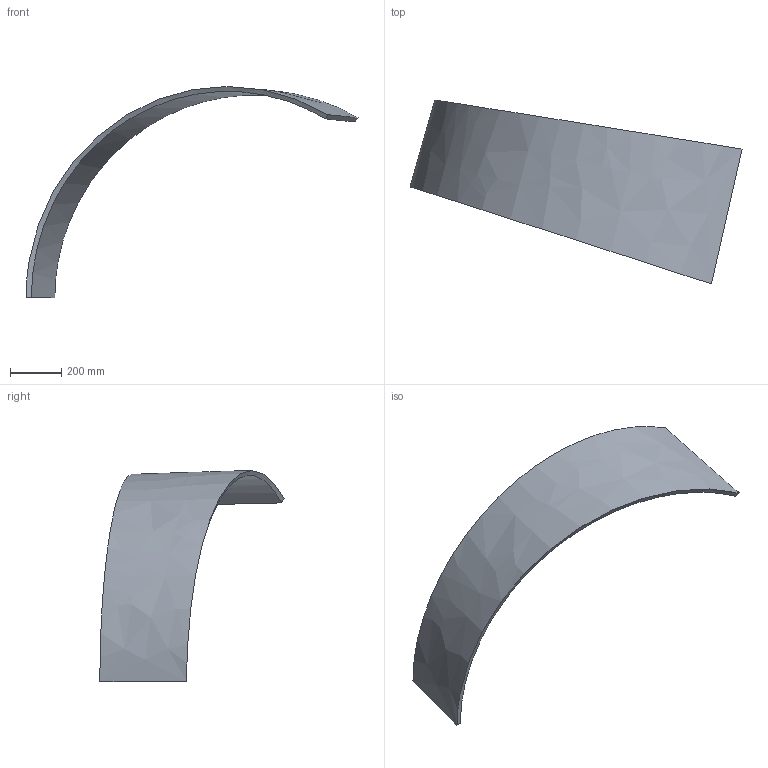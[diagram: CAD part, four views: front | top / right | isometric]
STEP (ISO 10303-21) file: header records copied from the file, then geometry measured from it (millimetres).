
FILE_DESCRIPTION (( 'STEP AP214' ), '1' );
FILE_NAME ('P5.2Mirror.STEP', '2025-01-09T19:43:28', ( '' ), ( '' ), 'SwSTEP 2.0', 'SolidWorks 2024', '' );
FILE_SCHEMA (( 'AUTOMOTIVE_DESIGN' ));
Length unit declared in the file: inch
Products named in the file (1): P5.2Mirror
Bounding box: 1289.67 x 715.79 x 819.93 mm (x, y, z)
Volume: 13305563.1 mm3; surface area: 1482798.5 mm2
Topology: 1 solids, 1 shells, 6 faces, 12 edges, 8 vertices
Faces by surface type: bspline 6
Entity records: 1911 total; most frequent: CARTESIAN_POINT 1797, ORIENTED_EDGE 24, EDGE_CURVE 12, B_SPLINE_CURVE_WITH_KNOTS 12, VERTEX_POINT 8, ADVANCED_FACE 6, FACE_OUTER_BOUND 6, EDGE_LOOP 6
